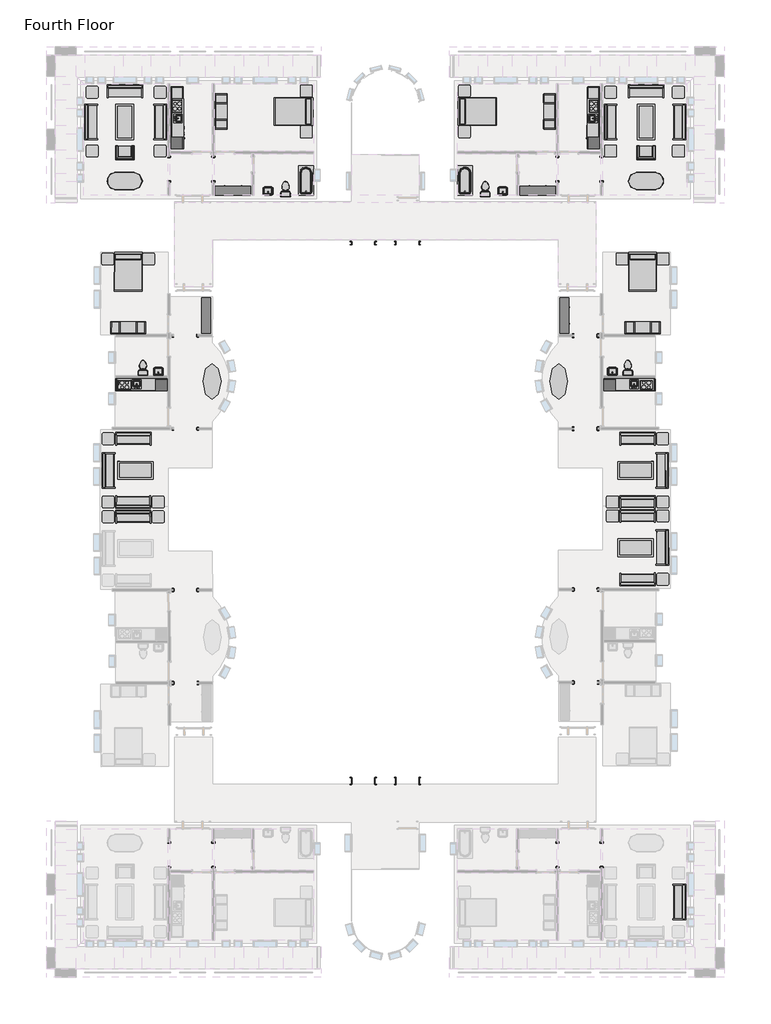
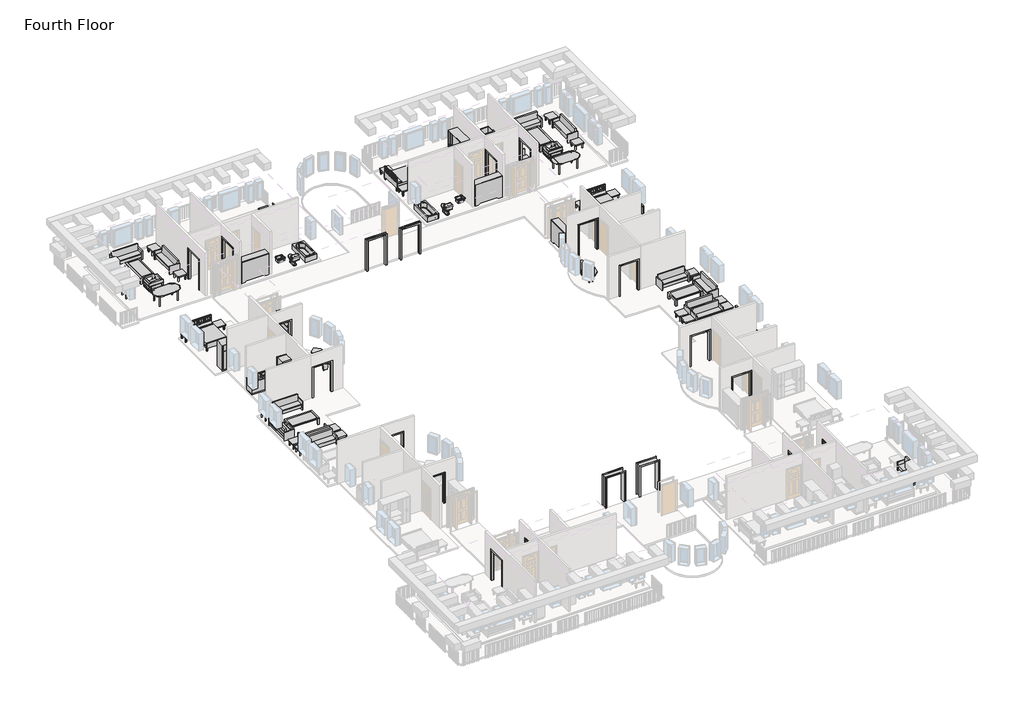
# One storey, part 6 of 6: 67 furniture elements, 24 proxies, 10 flow terminals.
"""IFC4 building model written with IfcOpenShell, lengths in millimetres."""

from ifc_helpers import new_model, si_unit, origin, place, context, project, spatial, transform, mapped, element, save
from components import kitchenette_medium_5_9f73a4de, kitchenette_medium_5_952fb32b, proxy_64a468c4, proxy_b7eaed23, proxy_1227038f, proxy_f44482cc, proxy_d58c73d0, proxy_1659ed5c, flow_terminal_0aeb31e3, flow_terminal_b53e1081, toilet_domestic_3d_toilet_domestic_3d_f7549cf7, toilet_domestic_3d_toilet_domestic_3d_183bbd19, toilet_domestic_3d_toilet_domestic_3d_a08e12bc, toilet_domestic_3d_toilet_domestic_3d_5530cc89, tub_rectangular_3d_tub_rectangular_3d_5e45a89b, tub_rectangular_3d_tub_rectangular_3d_98eb9c7c, furniture_096e7f55, furniture_097b173b, chair_corbu_chair_corbu_2764bdef, chair_corbu_chair_corbu_95fad79a, furniture_7c473f12, furniture_f6e81328, furniture_ddc78764, furniture_328d9d47, furniture_4ef38d96, furniture_dde8a40a, furniture_cd93a443, furniture_c9413244, furniture_2c34a4f9, furniture_cc351095, furniture_43880056, furniture_a7425590, furniture_3a588284, furniture_1befe2a2

model = new_model("IFC4")

# Units and contexts
model_context = context("Model", 3, world=origin())
ifc_project = project(units=[si_unit("LENGTHUNIT", "METRE", prefix="MILLI")], contexts=[model_context])

# Site, building, storey
site = spatial("IfcSite", under=ifc_project)
building = spatial("IfcBuilding", under=site)
storey = spatial("IfcBuildingStorey", under=building, Name="Fourth Floor", Elevation=9144.0)

# Proxies
placement = place(None, origin())
kitchenette_medium_5_shape = kitchenette_medium_5_9f73a4de(model_context)
element("IfcBuildingElementProxy", 1, Name="Kitchenette - Medium : 5'", ObjectType="Kitchenette - Medium : 5'", at=placement, inside=storey, context=model_context, shape_type="MappedRepresentation", body=[
    mapped(kitchenette_medium_5_shape, transform((-1753.4618267, -5560.5904816, 9144.0), x_axis=(-0.999999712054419, -0.0007588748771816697, 0.0), y_axis=(0.0007588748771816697, -0.999999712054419, 0.0), z_axis=(0.0, 0.0, 1.0))),
])
kitchenette_medium_5_2_shape = kitchenette_medium_5_952fb32b(model_context)
element("IfcBuildingElementProxy", 2, Name="Kitchenette - Medium : 5'", ObjectType="Kitchenette - Medium : 5'", at=placement, inside=storey, context=model_context, shape_type="MappedRepresentation", body=[
    mapped(kitchenette_medium_5_2_shape, transform((-28116.8810859, -5560.5904816, 9144.0), x_axis=(0.999999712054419, -0.0007588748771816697, 0.0), y_axis=(0.0007588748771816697, 0.999999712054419, 0.0), z_axis=(0.0, 0.0, 1.0))),
])
proxy_shape = proxy_64a468c4(model_context)
element("IfcBuildingElementProxy", 3, Name="Kitchenette - Medium : 8'6\"", ObjectType="Kitchenette - Medium : 8'6\"", at=placement, inside=storey, context=model_context, shape_type="MappedRepresentation", body=[
    mapped(proxy_shape, transform((-3887.7589563, 8837.7956433, 9144.0), x_axis=(0.0, -1.0, 0.0), y_axis=(1.0, 0.0, 0.0), z_axis=(0.0, 0.0, 1.0))),
])
proxy_2_shape = proxy_b7eaed23(model_context)
element("IfcBuildingElementProxy", 4, Name="Kitchenette - Medium : 8'6\"", ObjectType="Kitchenette - Medium : 8'6\"", at=placement, inside=storey, context=model_context, shape_type="MappedRepresentation", body=[
    mapped(proxy_2_shape, transform((-25982.5839563, 8837.7956433, 9144.0), x_axis=(0.0, -1.0, 0.0), y_axis=(1.0, 0.0, 0.0), z_axis=(0.0, 0.0, 1.0))),
])
proxy_3_shape = proxy_1227038f(model_context)
element("IfcBuildingElementProxy", 5, Name="Opening-Cased : 48\" x 84\"", ObjectType="Opening-Cased : 48\" x 84\"", at=placement, inside=storey, context=model_context, shape_type="MappedRepresentation", body=[
    mapped(proxy_3_shape, transform((-16086.360113, 2064.2316867, 9144.0), x_axis=(-1.0, 0.0, 0.0), y_axis=(0.0, -1.0, 0.0), z_axis=(0.0, 0.0, 1.0))),
])
element("IfcBuildingElementProxy", 6, Name="Opening-Cased : 48\" x 84\"", ObjectType="Opening-Cased : 48\" x 84\"", at=placement, inside=storey, context=model_context, shape_type="MappedRepresentation", body=[
    mapped(proxy_3_shape, transform((-13800.360113, 2064.2316867, 9144.0), x_axis=(-1.0, 0.0, 0.0), y_axis=(0.0, -1.0, 0.0), z_axis=(0.0, 0.0, 1.0))),
])
element("IfcBuildingElementProxy", 7, Name="Opening-Cased : 48\" x 84\"", ObjectType="Opening-Cased : 48\" x 84\"", at=placement, inside=storey, context=model_context, shape_type="MappedRepresentation", body=[
    mapped(proxy_3_shape, transform((-4617.8254596, -2712.3652832, 9144.0), x_axis=(-0.9999997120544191, -0.0007588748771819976, 0.0), y_axis=(0.0007588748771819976, -0.9999997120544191, 0.0), z_axis=(0.0, 0.0, 1.0))),
])
element("IfcBuildingElementProxy", 8, Name="Opening-Cased : 48\" x 84\"", ObjectType="Opening-Cased : 48\" x 84\"", at=placement, inside=storey, context=model_context, shape_type="MappedRepresentation", body=[
    mapped(proxy_3_shape, transform((-4597.8075056, -7509.7764734, 9144.0), x_axis=(0.9999997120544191, 0.0007588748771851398, 0.0), y_axis=(-0.0007588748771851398, 0.9999997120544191, 0.0), z_axis=(0.0, 0.0, 1.0))),
])
proxy_4_shape = proxy_f44482cc(model_context)
element("IfcBuildingElementProxy", 9, Name="Opening-Cased : 48\" x 84\"", ObjectType="Opening-Cased : 48\" x 84\"", at=placement, inside=storey, context=model_context, shape_type="MappedRepresentation", body=[
    mapped(proxy_4_shape, transform((-3773.4589563, 5882.4203434, 9144.0), x_axis=(0.0, 1.0, 0.0), y_axis=(-1.0, 0.0, 0.0), z_axis=(0.0, 0.0, 1.0))),
])
element("IfcBuildingElementProxy", 10, Name="Opening-Cased : 48\" x 84\"", ObjectType="Opening-Cased : 48\" x 84\"", at=placement, inside=storey, context=model_context, shape_type="MappedRepresentation", body=[
    mapped(proxy_4_shape, transform((-6059.4589563, 5866.04303, 9144.0), x_axis=(0.0, -1.0, 0.0), y_axis=(1.0, 0.0, 0.0), z_axis=(0.0, 0.0, 1.0))),
])
element("IfcBuildingElementProxy", 11, Name="Opening-Cased : 48\" x 84\"", ObjectType="Opening-Cased : 48\" x 84\"", at=placement, inside=storey, context=model_context, shape_type="MappedRepresentation", body=[
    mapped(proxy_4_shape, transform((-26096.8839563, -29490.75697, 9144.0), x_axis=(0.0, -1.0, 0.0), y_axis=(1.0, 0.0, 0.0), z_axis=(0.0, 0.0, 1.0))),
])
element("IfcBuildingElementProxy", 12, Name="Opening-Cased : 48\" x 84\"", ObjectType="Opening-Cased : 48\" x 84\"", at=placement, inside=storey, context=model_context, shape_type="MappedRepresentation", body=[
    mapped(proxy_4_shape, transform((-23810.8839563, -29474.3796566, 9144.0), x_axis=(0.0, 1.0, 0.0), y_axis=(-1.0, 0.0, 0.0), z_axis=(0.0, 0.0, 1.0))),
])
element("IfcBuildingElementProxy", 13, Name="Opening-Cased : 48\" x 84\"", ObjectType="Opening-Cased : 48\" x 84\"", at=placement, inside=storey, context=model_context, shape_type="MappedRepresentation", body=[
    mapped(proxy_4_shape, transform((-25238.9236624, -20625.4457115, 9144.0), x_axis=(0.9999974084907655, 0.0022766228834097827, 0.0), y_axis=(-0.0022766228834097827, 0.9999974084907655, 0.0), z_axis=(0.0, 0.0, 1.0))),
])
element("IfcBuildingElementProxy", 14, Name="Opening-Cased : 48\" x 84\"", ObjectType="Opening-Cased : 48\" x 84\"", at=placement, inside=storey, context=model_context, shape_type="MappedRepresentation", body=[
    mapped(proxy_4_shape, transform((-25266.2228609, -15828.0704291, 9144.0), x_axis=(-0.9999974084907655, -0.002276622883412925, 0.0), y_axis=(0.002276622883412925, -0.9999974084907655, 0.0), z_axis=(0.0, 0.0, 1.0))),
])
proxy_5_shape = proxy_d58c73d0(model_context)
element("IfcBuildingElementProxy", 15, Name="Opening-Cased : 48\" x 84\"", ObjectType="Opening-Cased : 48\" x 84\"", at=placement, inside=storey, context=model_context, shape_type="MappedRepresentation", body=[
    mapped(proxy_5_shape, transform((-26096.8839563, 5882.4203434, 9144.0), x_axis=(0.0, 1.0, 0.0), y_axis=(-1.0, 0.0, 0.0), z_axis=(0.0, 0.0, 1.0))),
])
element("IfcBuildingElementProxy", 16, Name="Opening-Cased : 48\" x 84\"", ObjectType="Opening-Cased : 48\" x 84\"", at=placement, inside=storey, context=model_context, shape_type="MappedRepresentation", body=[
    mapped(proxy_5_shape, transform((-23810.8839563, 5866.04303, 9144.0), x_axis=(0.0, -1.0, 0.0), y_axis=(1.0, 0.0, 0.0), z_axis=(0.0, 0.0, 1.0))),
])
element("IfcBuildingElementProxy", 17, Name="Opening-Cased : 48\" x 84\"", ObjectType="Opening-Cased : 48\" x 84\"", at=placement, inside=storey, context=model_context, shape_type="MappedRepresentation", body=[
    mapped(proxy_5_shape, transform((-3773.4589563, -29490.75697, 9144.0), x_axis=(0.0, -1.0, 0.0), y_axis=(1.0, 0.0, 0.0), z_axis=(0.0, 0.0, 1.0))),
])
element("IfcBuildingElementProxy", 18, Name="Opening-Cased : 48\" x 84\"", ObjectType="Opening-Cased : 48\" x 84\"", at=placement, inside=storey, context=model_context, shape_type="MappedRepresentation", body=[
    mapped(proxy_5_shape, transform((-6059.4589563, -29474.3796566, 9144.0), x_axis=(0.0, 1.0, 0.0), y_axis=(-1.0, 0.0, 0.0), z_axis=(0.0, 0.0, 1.0))),
])
element("IfcBuildingElementProxy", 19, Name="Opening-Cased : 48\" x 84\"", ObjectType="Opening-Cased : 48\" x 84\"", at=placement, inside=storey, context=model_context, shape_type="MappedRepresentation", body=[
    mapped(proxy_5_shape, transform((-25252.517453, -2712.3652832, 9144.0), x_axis=(0.9999997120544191, -0.0007588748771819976, 0.0), y_axis=(0.0007588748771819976, 0.9999997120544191, 0.0), z_axis=(0.0, 0.0, 1.0))),
])
element("IfcBuildingElementProxy", 20, Name="Opening-Cased : 48\" x 84\"", ObjectType="Opening-Cased : 48\" x 84\"", at=placement, inside=storey, context=model_context, shape_type="MappedRepresentation", body=[
    mapped(proxy_5_shape, transform((-25272.535407, -7509.7764734, 9144.0), x_axis=(-0.9999997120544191, 0.0007588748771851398, 0.0), y_axis=(-0.0007588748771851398, -0.9999997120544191, 0.0), z_axis=(0.0, 0.0, 1.0))),
])
element("IfcBuildingElementProxy", 21, Name="Opening-Cased : 48\" x 84\"", ObjectType="Opening-Cased : 48\" x 84\"", at=placement, inside=storey, context=model_context, shape_type="MappedRepresentation", body=[
    mapped(proxy_5_shape, transform((-4604.2554357, -20594.1274219, 9144.0), x_axis=(-0.9999997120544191, -0.0007588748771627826, 0.0), y_axis=(0.0007588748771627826, -0.9999997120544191, 0.0), z_axis=(0.0, 0.0, 1.0))),
])
element("IfcBuildingElementProxy", 22, Name="Opening-Cased : 48\" x 84\"", ObjectType="Opening-Cased : 48\" x 84\"", at=placement, inside=storey, context=model_context, shape_type="MappedRepresentation", body=[
    mapped(proxy_5_shape, transform((-4591.5187723, -15796.6913749, 9144.0), x_axis=(0.9999997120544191, 0.0007588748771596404, 0.0), y_axis=(-0.0007588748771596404, 0.9999997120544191, 0.0), z_axis=(0.0, 0.0, 1.0))),
])
proxy_6_shape = proxy_1659ed5c(model_context)
element("IfcBuildingElementProxy", 23, Name="Opening-Cased : 48\" x 84\"", ObjectType="Opening-Cased : 48\" x 84\"", at=placement, inside=storey, context=model_context, shape_type="MappedRepresentation", body=[
    mapped(proxy_6_shape, transform((-16086.360113, -25672.5683133, 9144.0), x_axis=(-1.0, 0.0, 0.0), y_axis=(0.0, -1.0, 0.0), z_axis=(0.0, 0.0, 1.0))),
])
element("IfcBuildingElementProxy", 24, Name="Opening-Cased : 48\" x 84\"", ObjectType="Opening-Cased : 48\" x 84\"", at=placement, inside=storey, context=model_context, shape_type="MappedRepresentation", body=[
    mapped(proxy_6_shape, transform((-13800.360113, -25672.5683133, 9144.0), x_axis=(-1.0, 0.0, 0.0), y_axis=(0.0, -1.0, 0.0), z_axis=(0.0, 0.0, 1.0))),
])

# Flow terminals
flow_terminal_shape = flow_terminal_0aeb31e3(model_context)
element("IfcFlowTerminal", 25, ObjectType="Sink Vanity-Square : 24\" x 19\"", at=placement, inside=storey, context=model_context, shape_type="MappedRepresentation", body=[
    mapped(flow_terminal_shape, transform((-8864.7572157, 4706.5895878, 9144.0), x_axis=(-1.0, 0.0, 0.0), y_axis=(0.0, -1.0, 0.0), z_axis=(0.0, 0.0, 1.0))),
])
element("IfcFlowTerminal", 26, ObjectType="Sink Vanity-Square : 24\" x 19\"", at=placement, inside=storey, context=model_context, shape_type="MappedRepresentation", body=[
    mapped(flow_terminal_shape, transform((-3205.2166877, -4601.2484326, 9144.0), x_axis=(-0.999999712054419, -0.0007588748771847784, 0.0), y_axis=(0.0007588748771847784, -0.999999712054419, 0.0), z_axis=(0.0, 0.0, 1.0))),
])
flow_terminal_2_shape = flow_terminal_b53e1081(model_context)
element("IfcFlowTerminal", 27, ObjectType="Sink Vanity-Square : 24\" x 19\"", at=placement, inside=storey, context=model_context, shape_type="MappedRepresentation", body=[
    mapped(flow_terminal_2_shape, transform((-21005.5856969, 4706.5895878, 9144.0), x_axis=(1.0, 0.0, 0.0), y_axis=(0.0, 1.0, 0.0), z_axis=(0.0, 0.0, 1.0))),
])
element("IfcFlowTerminal", 28, ObjectType="Sink Vanity-Square : 24\" x 19\"", at=placement, inside=storey, context=model_context, shape_type="MappedRepresentation", body=[
    mapped(flow_terminal_2_shape, transform((-26665.126225, -4601.2484326, 9144.0), x_axis=(0.999999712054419, -0.0007588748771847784, 0.0), y_axis=(0.0007588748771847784, 0.999999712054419, 0.0), z_axis=(0.0, 0.0, 1.0))),
])
toilet_domestic_3d_toilet_domestic_3d_shape = toilet_domestic_3d_toilet_domestic_3d_f7549cf7(model_context)
toilet_domestic_3d_toilet_domestic_3d_2_shape = toilet_domestic_3d_toilet_domestic_3d_183bbd19(model_context)
element("IfcFlowTerminal", 29, ObjectType="Toilet-Domestic-3D : Toilet-Domestic-3D", at=placement, inside=storey, context=model_context, shape_type="MappedRepresentation", body=[
    mapped(toilet_domestic_3d_toilet_domestic_3d_shape, transform((-9782.1466587, 4940.866411, 9144.0), x_axis=(-1.0000000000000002, 0.0, 0.0), y_axis=(0.0, -1.0000000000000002, 0.0), z_axis=(0.0, 0.0, 1.0))),
    mapped(toilet_domestic_3d_toilet_domestic_3d_2_shape, transform((-9782.1466587, 4940.866411, 9144.0), x_axis=(-1.0000000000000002, 0.0, 0.0), y_axis=(0.0, -1.0000000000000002, 0.0), z_axis=(0.0, 0.0, 1.0))),
])
element("IfcFlowTerminal", 30, ObjectType="Toilet-Domestic-3D : Toilet-Domestic-3D", at=placement, inside=storey, context=model_context, shape_type="MappedRepresentation", body=[
    mapped(toilet_domestic_3d_toilet_domestic_3d_shape, transform((-2425.8657006, -4275.1410966, 9144.0), x_axis=(-0.9999997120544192, -0.0007588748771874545, 0.0), y_axis=(0.0007588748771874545, -0.9999997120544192, 0.0), z_axis=(0.0, 0.0, 1.0))),
    mapped(toilet_domestic_3d_toilet_domestic_3d_2_shape, transform((-2425.8657006, -4275.1410966, 9144.0), x_axis=(-0.9999997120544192, -0.0007588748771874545, 0.0), y_axis=(0.0007588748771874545, -0.9999997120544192, 0.0), z_axis=(0.0, 0.0, 1.0))),
])
toilet_domestic_3d_toilet_domestic_3d_3_shape = toilet_domestic_3d_toilet_domestic_3d_a08e12bc(model_context)
toilet_domestic_3d_toilet_domestic_3d_4_shape = toilet_domestic_3d_toilet_domestic_3d_5530cc89(model_context)
element("IfcFlowTerminal", 31, ObjectType="Toilet-Domestic-3D : Toilet-Domestic-3D", at=placement, inside=storey, context=model_context, shape_type="MappedRepresentation", body=[
    mapped(toilet_domestic_3d_toilet_domestic_3d_3_shape, transform((-20088.1962539, 4940.866411, 9144.0), x_axis=(1.0000000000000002, 0.0, 0.0), y_axis=(0.0, 1.0000000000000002, 0.0), z_axis=(0.0, 0.0, 1.0))),
    mapped(toilet_domestic_3d_toilet_domestic_3d_4_shape, transform((-20088.1962539, 4940.866411, 9144.0), x_axis=(1.0000000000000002, 0.0, 0.0), y_axis=(0.0, 1.0000000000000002, 0.0), z_axis=(0.0, 0.0, 1.0))),
])
element("IfcFlowTerminal", 32, ObjectType="Toilet-Domestic-3D : Toilet-Domestic-3D", at=placement, inside=storey, context=model_context, shape_type="MappedRepresentation", body=[
    mapped(toilet_domestic_3d_toilet_domestic_3d_3_shape, transform((-27444.477212, -4275.1410966, 9144.0), x_axis=(0.9999997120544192, -0.0007588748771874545, 0.0), y_axis=(0.0007588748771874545, 0.9999997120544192, 0.0), z_axis=(0.0, 0.0, 1.0))),
    mapped(toilet_domestic_3d_toilet_domestic_3d_4_shape, transform((-27444.477212, -4275.1410966, 9144.0), x_axis=(0.9999997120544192, -0.0007588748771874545, 0.0), y_axis=(0.0007588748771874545, 0.9999997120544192, 0.0), z_axis=(0.0, 0.0, 1.0))),
])
tub_rectangular_3d_tub_rectangular_3d_shape = tub_rectangular_3d_tub_rectangular_3d_5e45a89b(model_context)
element("IfcFlowTerminal", 33, ObjectType="Tub-Rectangular-3D : Tub-Rectangular-3D", at=placement, inside=storey, context=model_context, shape_type="MappedRepresentation", body=[
    mapped(tub_rectangular_3d_tub_rectangular_3d_shape, transform((-11393.4589563, 5637.0471554, 9144.0), x_axis=(0.0, 1.0, 0.0), y_axis=(-1.0, 0.0, 0.0), z_axis=(0.0, 0.0, 1.0))),
])
tub_rectangular_3d_tub_rectangular_3d_2_shape = tub_rectangular_3d_tub_rectangular_3d_98eb9c7c(model_context)
element("IfcFlowTerminal", 34, ObjectType="Tub-Rectangular-3D : Tub-Rectangular-3D", at=placement, inside=storey, context=model_context, shape_type="MappedRepresentation", body=[
    mapped(tub_rectangular_3d_tub_rectangular_3d_2_shape, transform((-18476.8839563, 5637.0471554, 9144.0), x_axis=(0.0, 1.0, 0.0), y_axis=(-1.0, 0.0, 0.0), z_axis=(0.0, 0.0, 1.0))),
])

# Furniture
furniture_shape = furniture_096e7f55(model_context)
element("IfcFurniture", 35, ObjectType="Bed-Shaker : Double 56\" x 78\"", at=placement, inside=storey, context=model_context, shape_type="MappedRepresentation", body=[
    mapped(furniture_shape, transform((-11183.1982802, 8871.8755561, 9144.0), x_axis=(0.0, 1.0, 0.0), y_axis=(-1.0, 0.0, 0.0), z_axis=(0.0, 0.0, 1.0))),
])
element("IfcFurniture", 36, ObjectType="Bed-Shaker : Double 56\" x 78\"", at=placement, inside=storey, context=model_context, shape_type="MappedRepresentation", body=[
    mapped(furniture_shape, transform((-1645.8091062, 1570.2636135, 9144.0), x_axis=(0.999999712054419, 0.0007588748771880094, 0.0), y_axis=(-0.0007588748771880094, 0.999999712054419, 0.0), z_axis=(0.0, 0.0, 1.0))),
])
furniture_2_shape = furniture_097b173b(model_context)
element("IfcFurniture", 37, ObjectType="Bed-Shaker : Double 56\" x 78\"", at=placement, inside=storey, context=model_context, shape_type="MappedRepresentation", body=[
    mapped(furniture_2_shape, transform((-18687.1446324, 8871.8755561, 9144.0), x_axis=(0.0, 1.0, 0.0), y_axis=(-1.0, 0.0, 0.0), z_axis=(0.0, 0.0, 1.0))),
])
element("IfcFurniture", 38, ObjectType="Bed-Shaker : Double 56\" x 78\"", at=placement, inside=storey, context=model_context, shape_type="MappedRepresentation", body=[
    mapped(furniture_2_shape, transform((-28224.5338064, 1570.2636135, 9144.0), x_axis=(-0.999999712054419, 0.0007588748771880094, 0.0), y_axis=(-0.0007588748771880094, -0.999999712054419, 0.0), z_axis=(0.0, 0.0, 1.0))),
])
chair_corbu_chair_corbu_shape = chair_corbu_chair_corbu_2764bdef(model_context)
element("IfcFurniture", 39, ObjectType="Chair-Corbu : Chair-Corbu", at=placement, inside=storey, context=model_context, shape_type="MappedRepresentation", body=[
    mapped(chair_corbu_chair_corbu_shape, transform((-914.0851858, 7193.4962359, 9144.0), x_axis=(-1.0, 0.0, 0.0), y_axis=(0.0, -1.0, 0.0), z_axis=(0.0, 0.0, 1.0))),
])
chair_corbu_chair_corbu_2_shape = chair_corbu_chair_corbu_95fad79a(model_context)
element("IfcFurniture", 40, ObjectType="Chair-Corbu : Chair-Corbu", at=placement, inside=storey, context=model_context, shape_type="MappedRepresentation", body=[
    mapped(chair_corbu_chair_corbu_2_shape, transform((-28956.2577268, 7193.4962359, 9144.0), x_axis=(1.0, 0.0, 0.0), y_axis=(0.0, 1.0, 0.0), z_axis=(0.0, 0.0, 1.0))),
])
furniture_3_shape = furniture_7c473f12(model_context)
element("IfcFurniture", 41, ObjectType="Dresser : 72\" x 60\" x 18\"", at=placement, inside=storey, context=model_context, shape_type="MappedRepresentation", body=[
    mapped(furniture_3_shape, transform((-7344.6522161, 4404.5812326, 9144.0), x_axis=(-1.0, 0.0, 0.0), y_axis=(0.0, -1.0, 0.0), z_axis=(0.0, 0.0, 1.0))),
])
element("IfcFurniture", 42, ObjectType="Dresser : 72\" x 60\" x 18\"", at=placement, inside=storey, context=model_context, shape_type="MappedRepresentation", body=[
    mapped(furniture_3_shape, transform((-6053.2912845, -1406.3342018, 9144.0), x_axis=(-0.0007588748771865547, 0.999999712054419, 0.0), y_axis=(-0.999999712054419, -0.0007588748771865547, 0.0), z_axis=(0.0, 0.0, 1.0))),
])
furniture_4_shape = furniture_f6e81328(model_context)
element("IfcFurniture", 43, ObjectType="Dresser : 72\" x 60\" x 18\"", at=placement, inside=storey, context=model_context, shape_type="MappedRepresentation", body=[
    mapped(furniture_4_shape, transform((-22525.6906965, 4404.5812326, 9144.0), x_axis=(1.0, 0.0, 0.0), y_axis=(0.0, 1.0, 0.0), z_axis=(0.0, 0.0, 1.0))),
])
element("IfcFurniture", 44, ObjectType="Dresser : 72\" x 60\" x 18\"", at=placement, inside=storey, context=model_context, shape_type="MappedRepresentation", body=[
    mapped(furniture_4_shape, transform((-23817.0516281, -1406.3342018, 9144.0), x_axis=(0.0007588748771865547, 0.999999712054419, 0.0), y_axis=(-0.999999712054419, 0.0007588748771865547, 0.0), z_axis=(0.0, 0.0, 1.0))),
])
furniture_5_shape = furniture_ddc78764(model_context)
element("IfcFurniture", 45, ObjectType="Entertainment Center : 72\" x 72\" x 24\"", at=placement, inside=storey, context=model_context, shape_type="MappedRepresentation", body=[
    mapped(furniture_5_shape, transform((-6059.4589563, 8852.8255561, 9144.0), x_axis=(0.0, -1.0, 0.0), y_axis=(1.0, 0.0, 0.0), z_axis=(0.0, 0.0, 1.0))),
])
element("IfcFurniture", 46, ObjectType="Entertainment Center : 72\" x 72\" x 24\"", at=placement, inside=storey, context=model_context, shape_type="MappedRepresentation", body=[
    mapped(furniture_5_shape, transform((-1661.6117025, -2708.9771599, 9144.0), x_axis=(-0.999999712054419, -0.0007588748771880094, 0.0), y_axis=(0.0007588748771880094, -0.999999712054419, 0.0), z_axis=(0.0, 0.0, 1.0))),
])
furniture_6_shape = furniture_328d9d47(model_context)
element("IfcFurniture", 47, ObjectType="Entertainment Center : 72\" x 72\" x 24\"", at=placement, inside=storey, context=model_context, shape_type="MappedRepresentation", body=[
    mapped(furniture_6_shape, transform((-23810.8839563, 8852.8255561, 9144.0), x_axis=(0.0, -1.0, 0.0), y_axis=(1.0, 0.0, 0.0), z_axis=(0.0, 0.0, 1.0))),
])
element("IfcFurniture", 48, ObjectType="Entertainment Center : 72\" x 72\" x 24\"", at=placement, inside=storey, context=model_context, shape_type="MappedRepresentation", body=[
    mapped(furniture_6_shape, transform((-28208.7312102, -2708.9771599, 9144.0), x_axis=(0.999999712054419, -0.0007588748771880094, 0.0), y_axis=(0.0007588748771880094, 0.999999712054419, 0.0), z_axis=(0.0, 0.0, 1.0))),
])
furniture_7_shape = furniture_4ef38d96(model_context)
element("IfcFurniture", 49, ObjectType="Sofa : 72\"", at=placement, inside=storey, context=model_context, shape_type="MappedRepresentation", body=[
    mapped(furniture_7_shape, transform((-1557.8294481, 9741.2775883, 9144.0), x_axis=(1.0, 0.0, 0.0), y_axis=(0.0, 1.0, 0.0), z_axis=(0.0, 0.0, 1.0))),
])
element("IfcFurniture", 50, ObjectType="Sofa : 72\"", at=placement, inside=storey, context=model_context, shape_type="MappedRepresentation", body=[
    mapped(furniture_7_shape, transform((93.5869453, 8383.0021785, 9144.0), x_axis=(0.0, -1.0, 0.0), y_axis=(1.0, 0.0, 0.0), z_axis=(0.0, 0.0, 1.0))),
])
element("IfcFurniture", 51, ObjectType="Sofa : 72\"", at=placement, inside=storey, context=model_context, shape_type="MappedRepresentation", body=[
    mapped(furniture_7_shape, transform((-3170.104858, 8242.2611949, 9144.0), x_axis=(0.0, 1.0, 0.0), y_axis=(-1.0, 0.0, 0.0), z_axis=(0.0, 0.0, 1.0))),
])
element("IfcFurniture", 52, ObjectType="Sofa : 72\"", at=placement, inside=storey, context=model_context, shape_type="MappedRepresentation", body=[
    mapped(furniture_7_shape, transform((-800.8735734, -9586.0001817, 9144.0), x_axis=(0.0007588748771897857, -0.999999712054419, 0.0), y_axis=(0.999999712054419, 0.0007588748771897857, 0.0), z_axis=(0.0, 0.0, 1.0))),
])
element("IfcFurniture", 53, ObjectType="Sofa : 72\"", at=placement, inside=storey, context=model_context, shape_type="MappedRepresentation", body=[
    mapped(furniture_7_shape, transform((-1992.7162667, -8169.1843818, 9144.0), x_axis=(0.999999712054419, 0.0007588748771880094, 0.0), y_axis=(-0.0007588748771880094, 0.999999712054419, 0.0), z_axis=(0.0, 0.0, 1.0))),
])
element("IfcFurniture", 54, ObjectType="Sofa : 72\"", at=placement, inside=storey, context=model_context, shape_type="MappedRepresentation", body=[
    mapped(furniture_7_shape, transform((-1990.2358926, -11437.6723238, 9144.0), x_axis=(0.999999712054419, 0.0007588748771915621, 0.0), y_axis=(-0.0007588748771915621, 0.999999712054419, 0.0), z_axis=(0.0, 0.0, 1.0))),
])
element("IfcFurniture", 55, ObjectType="Sofa : 72\"", at=placement, inside=storey, context=model_context, shape_type="MappedRepresentation", body=[
    mapped(furniture_7_shape, transform((-27879.8851947, -11145.3642112, 9144.0), x_axis=(-0.999999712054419, 0.0007588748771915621, 0.0), y_axis=(-0.0007588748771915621, -0.999999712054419, 0.0), z_axis=(0.0, 0.0, 1.0))),
])
element("IfcFurniture", 56, ObjectType="Sofa : 72\"", at=placement, inside=storey, context=model_context, shape_type="MappedRepresentation", body=[
    mapped(furniture_7_shape, transform((-1989.6898985, -12157.1505212, 9144.0), x_axis=(0.999999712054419, 0.0007588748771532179, 0.0), y_axis=(-0.0007588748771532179, 0.999999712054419, 0.0), z_axis=(0.0, 0.0, 1.0))),
])
furniture_8_shape = furniture_dde8a40a(model_context)
element("IfcFurniture", 57, ObjectType="Sofa : 72\"", at=placement, inside=storey, context=model_context, shape_type="MappedRepresentation", body=[
    mapped(furniture_8_shape, transform((-28312.5134645, 9741.2775883, 9144.0), x_axis=(-1.0, 0.0, 0.0), y_axis=(0.0, -1.0, 0.0), z_axis=(0.0, 0.0, 1.0))),
])
element("IfcFurniture", 58, ObjectType="Sofa : 72\"", at=placement, inside=storey, context=model_context, shape_type="MappedRepresentation", body=[
    mapped(furniture_8_shape, transform((-29963.929858, 8383.0021785, 9144.0), x_axis=(0.0, -1.0, 0.0), y_axis=(1.0, 0.0, 0.0), z_axis=(0.0, 0.0, 1.0))),
])
element("IfcFurniture", 59, ObjectType="Sofa : 72\"", at=placement, inside=storey, context=model_context, shape_type="MappedRepresentation", body=[
    mapped(furniture_8_shape, transform((-26700.2380547, 8242.2611949, 9144.0), x_axis=(0.0, 1.0, 0.0), y_axis=(-1.0, 0.0, 0.0), z_axis=(0.0, 0.0, 1.0))),
])
element("IfcFurniture", 60, ObjectType="Sofa : 72\"", at=placement, inside=storey, context=model_context, shape_type="MappedRepresentation", body=[
    mapped(furniture_8_shape, transform((93.5869453, -31991.3388051, 9144.0), x_axis=(0.0, 1.0, 0.0), y_axis=(-1.0, 0.0, 0.0), z_axis=(0.0, 0.0, 1.0))),
])
element("IfcFurniture", 61, ObjectType="Sofa : 72\"", at=placement, inside=storey, context=model_context, shape_type="MappedRepresentation", body=[
    mapped(furniture_8_shape, transform((-29069.4693392, -9586.0001817, 9144.0), x_axis=(-0.0007588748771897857, -0.999999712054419, 0.0), y_axis=(0.999999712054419, -0.0007588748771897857, 0.0), z_axis=(0.0, 0.0, 1.0))),
])
element("IfcFurniture", 62, ObjectType="Sofa : 72\"", at=placement, inside=storey, context=model_context, shape_type="MappedRepresentation", body=[
    mapped(furniture_8_shape, transform((-27877.6266459, -8169.1843818, 9144.0), x_axis=(-0.999999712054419, 0.0007588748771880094, 0.0), y_axis=(-0.0007588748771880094, -0.999999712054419, 0.0), z_axis=(0.0, 0.0, 1.0))),
])
element("IfcFurniture", 63, ObjectType="Sofa : 72\"", at=placement, inside=storey, context=model_context, shape_type="MappedRepresentation", body=[
    mapped(furniture_8_shape, transform((-797.7404004, -13714.7072641, 9144.0), x_axis=(-0.0007588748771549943, 0.9999997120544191, 0.0), y_axis=(-0.9999997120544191, -0.0007588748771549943, 0.0), z_axis=(0.0, 0.0, 1.0))),
])
element("IfcFurniture", 64, ObjectType="Sofa : 72\"", at=placement, inside=storey, context=model_context, shape_type="MappedRepresentation", body=[
    mapped(furniture_8_shape, transform((-1987.4313498, -15133.3303506, 9144.0), x_axis=(0.999999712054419, 0.0007588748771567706, 0.0), y_axis=(-0.0007588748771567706, 0.999999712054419, 0.0), z_axis=(0.0, 0.0, 1.0))),
])
element("IfcFurniture", 65, ObjectType="Sofa : 72\"", at=placement, inside=storey, context=model_context, shape_type="MappedRepresentation", body=[
    mapped(furniture_8_shape, transform((-27879.0875562, -12196.444182, 9144.0), x_axis=(-0.9999974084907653, -0.002276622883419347, 0.0), y_axis=(0.002276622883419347, -0.9999974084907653, 0.0), z_axis=(0.0, 0.0, 1.0))),
])
furniture_9_shape = furniture_cd93a443(model_context)
element("IfcFurniture", 66, ObjectType="Table-Coffee : 36\" x 72\" x 18\"", at=placement, inside=storey, context=model_context, shape_type="MappedRepresentation", body=[
    mapped(furniture_9_shape, transform((-1582.6700341, 8330.8974534, 9144.0), x_axis=(0.0, -1.0, 0.0), y_axis=(1.0, 0.0, 0.0), z_axis=(0.0, 0.0, 1.0))),
])
element("IfcFurniture", 67, ObjectType="Table-Coffee : 36\" x 72\" x 18\"", at=placement, inside=storey, context=model_context, shape_type="MappedRepresentation", body=[
    mapped(furniture_9_shape, transform((-2008.0722116, -9562.0757015, 9144.0), x_axis=(-0.999999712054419, -0.0007588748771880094, 0.0), y_axis=(0.0007588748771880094, -0.999999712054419, 0.0), z_axis=(0.0, 0.0, 1.0))),
])
furniture_10_shape = furniture_c9413244(model_context)
element("IfcFurniture", 68, ObjectType="Table-Coffee : 36\" x 72\" x 18\"", at=placement, inside=storey, context=model_context, shape_type="MappedRepresentation", body=[
    mapped(furniture_10_shape, transform((-28287.6728785, 8330.8974534, 9144.0), x_axis=(0.0, -1.0, 0.0), y_axis=(1.0, 0.0, 0.0), z_axis=(0.0, 0.0, 1.0))),
])
element("IfcFurniture", 69, ObjectType="Table-Coffee : 36\" x 72\" x 18\"", at=placement, inside=storey, context=model_context, shape_type="MappedRepresentation", body=[
    mapped(furniture_10_shape, transform((-27862.270701, -9562.0757015, 9144.0), x_axis=(0.999999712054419, -0.0007588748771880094, 0.0), y_axis=(0.0007588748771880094, 0.999999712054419, 0.0), z_axis=(0.0, 0.0, 1.0))),
])
element("IfcFurniture", 70, ObjectType="Table-Coffee : 36\" x 72\" x 18\"", at=placement, inside=storey, context=model_context, shape_type="MappedRepresentation", body=[
    mapped(furniture_10_shape, transform((-2004.9013369, -13740.4639417, 9144.0), x_axis=(-0.999999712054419, -0.0007588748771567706, 0.0), y_axis=(0.0007588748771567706, -0.999999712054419, 0.0), z_axis=(0.0, 0.0, 1.0))),
])
furniture_11_shape = furniture_2c34a4f9(model_context)
element("IfcFurniture", 71, ObjectType="Table-Dining Oval : 36\" x 72\"", at=placement, inside=storey, context=model_context, shape_type="MappedRepresentation", body=[
    mapped(furniture_11_shape, transform((-1085.6392842, 5622.7300473, 9144.0), x_axis=(1.0, 0.0, 0.0), y_axis=(0.0, 1.0, 0.0), z_axis=(0.0, 0.0, 1.0))),
])
furniture_12_shape = furniture_cc351095(model_context)
element("IfcFurniture", 72, ObjectType="Table-Dining Oval : 36\" x 72\"", at=placement, inside=storey, context=model_context, shape_type="MappedRepresentation", body=[
    mapped(furniture_12_shape, transform((-28784.7036284, 5622.7300473, 9144.0), x_axis=(-1.0, 0.0, 0.0), y_axis=(0.0, -1.0, 0.0), z_axis=(0.0, 0.0, 1.0))),
])
furniture_13_shape = furniture_43880056(model_context)
element("IfcFurniture", 73, ObjectType="Table-Ellipse : 72\" x 36\"", at=placement, inside=storey, context=model_context, shape_type="MappedRepresentation", body=[
    mapped(furniture_13_shape, transform((-5992.1462019, -5072.4339002, 9144.0), x_axis=(0.0007588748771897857, -0.999999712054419, 0.0), y_axis=(0.999999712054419, 0.0007588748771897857, 0.0), z_axis=(0.0, 0.0, 1.0))),
])
furniture_14_shape = furniture_a7425590(model_context)
element("IfcFurniture", 74, ObjectType="Table-Ellipse : 72\" x 36\"", at=placement, inside=storey, context=model_context, shape_type="MappedRepresentation", body=[
    mapped(furniture_14_shape, transform((-23878.1967107, -5072.4339002, 9144.0), x_axis=(-0.0007588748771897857, -0.999999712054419, 0.0), y_axis=(0.999999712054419, -0.0007588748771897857, 0.0), z_axis=(0.0, 0.0, 1.0))),
])
furniture_15_shape = furniture_3a588284(model_context)
element("IfcFurniture", 75, ObjectType="Table-End : 24\" x 24\"", at=placement, inside=storey, context=model_context, shape_type="MappedRepresentation", body=[
    mapped(furniture_15_shape, transform((-119.5925866, 9684.2316867, 9144.0), x_axis=(1.0, 0.0, 0.0), y_axis=(0.0, 1.0, 0.0), z_axis=(0.0, 0.0, 1.0))),
])
element("IfcFurniture", 76, ObjectType="Table-End : 24\" x 24\"", at=placement, inside=storey, context=model_context, shape_type="MappedRepresentation", body=[
    mapped(furniture_15_shape, transform((-3624.7925866, 9684.2316867, 9144.0), x_axis=(1.0, 0.0, 0.0), y_axis=(0.0, 1.0, 0.0), z_axis=(0.0, 0.0, 1.0))),
])
element("IfcFurniture", 77, ObjectType="Table-End : 24\" x 24\"", at=placement, inside=storey, context=model_context, shape_type="MappedRepresentation", body=[
    mapped(furniture_15_shape, transform((-3624.7925866, 6660.0441867, 9144.0), x_axis=(1.0, 0.0, 0.0), y_axis=(0.0, 1.0, 0.0), z_axis=(0.0, 0.0, 1.0))),
])
element("IfcFurniture", 78, ObjectType="Table-End : 24\" x 24\"", at=placement, inside=storey, context=model_context, shape_type="MappedRepresentation", body=[
    mapped(furniture_15_shape, transform((-119.5925866, 6660.0441867, 9144.0), x_axis=(1.0, 0.0, 0.0), y_axis=(0.0, 1.0, 0.0), z_axis=(0.0, 0.0, 1.0))),
])
element("IfcFurniture", 79, ObjectType="Table-End : 24\" x 24\"", at=placement, inside=storey, context=model_context, shape_type="MappedRepresentation", body=[
    mapped(furniture_15_shape, transform((-11164.2346356, 9756.0737357, 9144.0), x_axis=(1.0, 0.0, 0.0), y_axis=(0.0, 1.0, 0.0), z_axis=(0.0, 0.0, 1.0))),
])
element("IfcFurniture", 80, ObjectType="Table-End : 24\" x 24\"", at=placement, inside=storey, context=model_context, shape_type="MappedRepresentation", body=[
    mapped(furniture_15_shape, transform((-18706.1082771, 7949.5773764, 9144.0), x_axis=(-1.0, 0.0, 0.0), y_axis=(0.0, -1.0, 0.0), z_axis=(0.0, 0.0, 1.0))),
])
element("IfcFurniture", 81, ObjectType="Table-End : 24\" x 24\"", at=placement, inside=storey, context=model_context, shape_type="MappedRepresentation", body=[
    mapped(furniture_15_shape, transform((-779.6911754, -7713.5759877, 9144.0), x_axis=(0.0007588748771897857, -0.999999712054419, 0.0), y_axis=(0.999999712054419, 0.0007588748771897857, 0.0), z_axis=(0.0, 0.0, 1.0))),
])
element("IfcFurniture", 82, ObjectType="Table-End : 24\" x 24\"", at=placement, inside=storey, context=model_context, shape_type="MappedRepresentation", body=[
    mapped(furniture_15_shape, transform((-761.5967902, 1551.9709701, 9144.0), x_axis=(0.0007588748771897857, -0.999999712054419, 0.0), y_axis=(0.999999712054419, 0.0007588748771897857, 0.0), z_axis=(0.0, 0.0, 1.0))),
])
element("IfcFurniture", 83, ObjectType="Table-End : 24\" x 24\"", at=placement, inside=storey, context=model_context, shape_type="MappedRepresentation", body=[
    mapped(furniture_15_shape, transform((-2872.8925415, 1550.3687603, 9144.0), x_axis=(0.0007588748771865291, -0.999999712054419, 0.0), y_axis=(0.999999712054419, 0.0007588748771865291, 0.0), z_axis=(0.0, 0.0, 1.0))),
])
element("IfcFurniture", 84, ObjectType="Table-End : 24\" x 24\"", at=placement, inside=storey, context=model_context, shape_type="MappedRepresentation", body=[
    mapped(furniture_15_shape, transform((-471.9426122, -11598.8997075, 9144.0), x_axis=(-0.0007588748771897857, 0.999999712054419, 0.0), y_axis=(-0.999999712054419, -0.0007588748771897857, 0.0), z_axis=(0.0, 0.0, 1.0))),
])
element("IfcFurniture", 85, ObjectType="Table-End : 24\" x 24\"", at=placement, inside=storey, context=model_context, shape_type="MappedRepresentation", body=[
    mapped(furniture_15_shape, transform((-3062.7418662, -11600.8658005, 9144.0), x_axis=(-0.0007588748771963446, 0.999999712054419, 0.0), y_axis=(-0.999999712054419, -0.0007588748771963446, 0.0), z_axis=(0.0, 0.0, 1.0))),
])
element("IfcFurniture", 86, ObjectType="Table-End : 24\" x 24\"", at=placement, inside=storey, context=model_context, shape_type="MappedRepresentation", body=[
    mapped(furniture_15_shape, transform((-27302.2502834, 1550.6000654, 9144.0), x_axis=(-0.0007588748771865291, -0.999999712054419, 0.0), y_axis=(0.999999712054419, -0.0007588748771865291, 0.0), z_axis=(0.0, 0.0, 1.0))),
])
element("IfcFurniture", 87, ObjectType="Table-End : 24\" x 24\"", at=placement, inside=storey, context=model_context, shape_type="MappedRepresentation", body=[
    mapped(furniture_15_shape, transform((-29093.6003882, -11599.1310126, 9144.0), x_axis=(0.0007588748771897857, 0.999999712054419, 0.0), y_axis=(-0.999999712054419, 0.0007588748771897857, 0.0), z_axis=(0.0, 0.0, 1.0))),
])
element("IfcFurniture", 88, ObjectType="Table-End : 24\" x 24\"", at=placement, inside=storey, context=model_context, shape_type="MappedRepresentation", body=[
    mapped(furniture_15_shape, transform((-776.6648072, -11701.5421271, 9144.0), x_axis=(0.0007588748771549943, -0.9999997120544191, 0.0), y_axis=(0.9999997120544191, 0.0007588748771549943, 0.0), z_axis=(0.0, 0.0, 1.0))),
])
element("IfcFurniture", 89, ObjectType="Table-End : 24\" x 24\"", at=placement, inside=storey, context=model_context, shape_type="MappedRepresentation", body=[
    mapped(furniture_15_shape, transform((-26807.4959803, -11739.3156588, 9144.0), x_axis=(0.0022766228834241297, -0.9999974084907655, 0.0), y_axis=(0.9999974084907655, 0.0022766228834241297, 0.0), z_axis=(0.0, 0.0, 1.0))),
])
furniture_16_shape = furniture_1befe2a2(model_context)
element("IfcFurniture", 90, ObjectType="Table-End : 24\" x 24\"", at=placement, inside=storey, context=model_context, shape_type="MappedRepresentation", body=[
    mapped(furniture_16_shape, transform((-11164.2346356, 7949.5773764, 9144.0), x_axis=(1.0, 0.0, 0.0), y_axis=(0.0, 1.0, 0.0), z_axis=(0.0, 0.0, 1.0))),
])
element("IfcFurniture", 91, ObjectType="Table-End : 24\" x 24\"", at=placement, inside=storey, context=model_context, shape_type="MappedRepresentation", body=[
    mapped(furniture_16_shape, transform((-29750.750326, 9684.2316867, 9144.0), x_axis=(-1.0, 0.0, 0.0), y_axis=(0.0, -1.0, 0.0), z_axis=(0.0, 0.0, 1.0))),
])
element("IfcFurniture", 92, ObjectType="Table-End : 24\" x 24\"", at=placement, inside=storey, context=model_context, shape_type="MappedRepresentation", body=[
    mapped(furniture_16_shape, transform((-26245.550326, 9684.2316867, 9144.0), x_axis=(-1.0, 0.0, 0.0), y_axis=(0.0, -1.0, 0.0), z_axis=(0.0, 0.0, 1.0))),
])
element("IfcFurniture", 93, ObjectType="Table-End : 24\" x 24\"", at=placement, inside=storey, context=model_context, shape_type="MappedRepresentation", body=[
    mapped(furniture_16_shape, transform((-26245.550326, 6660.0441867, 9144.0), x_axis=(-1.0, 0.0, 0.0), y_axis=(0.0, -1.0, 0.0), z_axis=(0.0, 0.0, 1.0))),
])
element("IfcFurniture", 94, ObjectType="Table-End : 24\" x 24\"", at=placement, inside=storey, context=model_context, shape_type="MappedRepresentation", body=[
    mapped(furniture_16_shape, transform((-29750.750326, 6660.0441867, 9144.0), x_axis=(-1.0, 0.0, 0.0), y_axis=(0.0, -1.0, 0.0), z_axis=(0.0, 0.0, 1.0))),
])
element("IfcFurniture", 95, ObjectType="Table-End : 24\" x 24\"", at=placement, inside=storey, context=model_context, shape_type="MappedRepresentation", body=[
    mapped(furniture_16_shape, transform((-18706.1082771, 9756.0737357, 9144.0), x_axis=(-1.0, 0.0, 0.0), y_axis=(0.0, -1.0, 0.0), z_axis=(0.0, 0.0, 1.0))),
])
element("IfcFurniture", 96, ObjectType="Table-End : 24\" x 24\"", at=placement, inside=storey, context=model_context, shape_type="MappedRepresentation", body=[
    mapped(furniture_16_shape, transform((-29090.6517372, -7713.5759877, 9144.0), x_axis=(-0.0007588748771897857, -0.999999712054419, 0.0), y_axis=(0.999999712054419, -0.0007588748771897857, 0.0), z_axis=(0.0, 0.0, 1.0))),
])
element("IfcFurniture", 97, ObjectType="Table-End : 24\" x 24\"", at=placement, inside=storey, context=model_context, shape_type="MappedRepresentation", body=[
    mapped(furniture_16_shape, transform((-29108.7461224, 1551.9709701, 9144.0), x_axis=(-0.0007588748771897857, -0.999999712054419, 0.0), y_axis=(0.999999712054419, -0.0007588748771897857, 0.0), z_axis=(0.0, 0.0, 1.0))),
])
element("IfcFurniture", 98, ObjectType="Table-End : 24\" x 24\"", at=placement, inside=storey, context=model_context, shape_type="MappedRepresentation", body=[
    mapped(furniture_16_shape, transform((-26807.6010464, -11600.8658005, 9144.0), x_axis=(0.0007588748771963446, 0.999999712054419, 0.0), y_axis=(-0.999999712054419, 0.0007588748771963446, 0.0), z_axis=(0.0, 0.0, 1.0))),
])
element("IfcFurniture", 99, ObjectType="Table-End : 24\" x 24\"", at=placement, inside=storey, context=model_context, shape_type="MappedRepresentation", body=[
    mapped(furniture_16_shape, transform((-773.7161563, -15587.0971519, 9144.0), x_axis=(-0.0007588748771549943, 0.9999997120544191, 0.0), y_axis=(-0.9999997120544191, -0.0007588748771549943, 0.0), z_axis=(0.0, 0.0, 1.0))),
])
element("IfcFurniture", 100, ObjectType="Table-End : 24\" x 24\"", at=placement, inside=storey, context=model_context, shape_type="MappedRepresentation", body=[
    mapped(furniture_16_shape, transform((-3062.664149, -11703.276915, 9144.0), x_axis=(0.0007588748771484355, -0.9999997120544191, 0.0), y_axis=(0.9999997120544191, 0.0007588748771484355, 0.0), z_axis=(0.0, 0.0, 1.0))),
])
element("IfcFurniture", 101, ObjectType="Table-End : 24\" x 24\"", at=placement, inside=storey, context=model_context, shape_type="MappedRepresentation", body=[
    mapped(furniture_16_shape, transform((-29093.4900561, -11744.5200187, 9144.0), x_axis=(0.0022766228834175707, -0.9999974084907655, 0.0), y_axis=(0.9999974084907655, 0.0022766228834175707, 0.0), z_axis=(0.0, 0.0, 1.0))),
])

save(model, "model.ifc")
